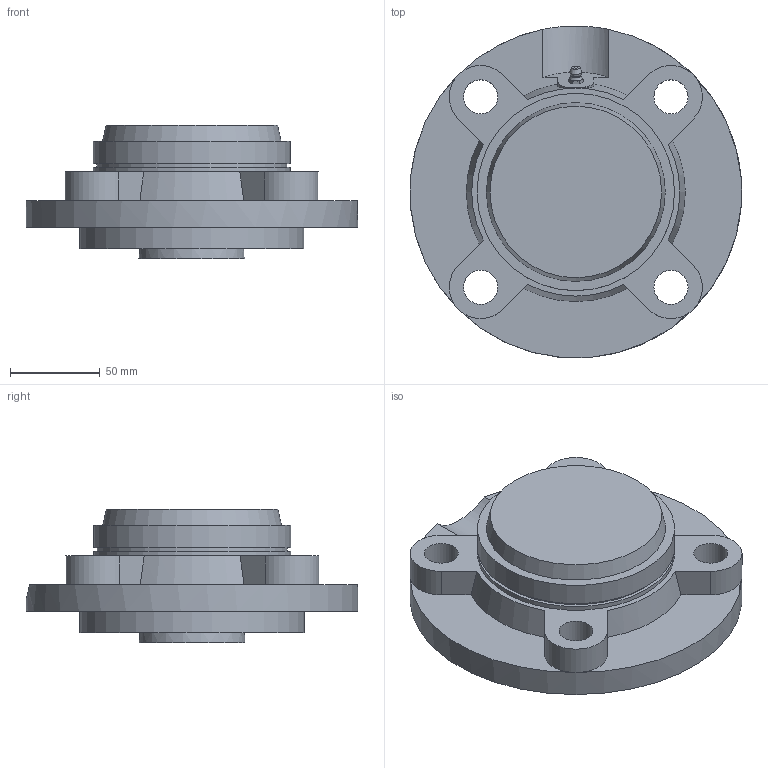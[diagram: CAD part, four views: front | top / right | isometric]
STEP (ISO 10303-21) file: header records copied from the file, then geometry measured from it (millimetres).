
FILE_DESCRIPTION((''),'2;1');
FILE_NAME('\\Ts-tgl068\j-cad-d-base\00.3DCADデータ作成フォルダ\02.フランジ形\UKFC200C(E)\UKFC211E+H.stp','2014-05-22T07:52:47',('btec_1106_2'),(''),'Autodesk Inventor 2012','Autodesk Inventor 2012','');
FILE_SCHEMA(('AUTOMOTIVE_DESIGN { 1 0 10303 214 1 1 1 1 }'));
Length unit declared in the file: millimetre
Products named in the file (5): UKFC200E+H; FC211C; 211CPE; UK211; GU1
Assembly tree (4 placements, depth 2):
  UKFC200E+H
    FC211C
    211CPE
    UK211
    GU1
Bounding box: 184.78 x 184.85 x 74.5 mm (x, y, z)
Volume: 609068.7 mm3; surface area: 159418.9 mm2
Topology: 4 solids, 4 shells, 243 faces, 636 edges, 415 vertices
Faces by surface type: plane 96, cone 75, cylinder 64, sphere 4, bspline 2, torus 2
Full cylindrical faces by diameter (mm): 5.359 x1, 6.35 x1, 19 x4, 50 x1, 70 x2, 104 x1, 106 x1, 108 x2, 110 x3, 125 x1, 185 x1
Entity records: 7416 total; most frequent: CARTESIAN_POINT 1676, ORIENTED_EDGE 1196, DIRECTION 1157, EDGE_CURVE 598, AXIS2_PLACEMENT_3D 469, VERTEX_POINT 404, EDGE_LOOP 301, FACE_OUTER_BOUND 243
